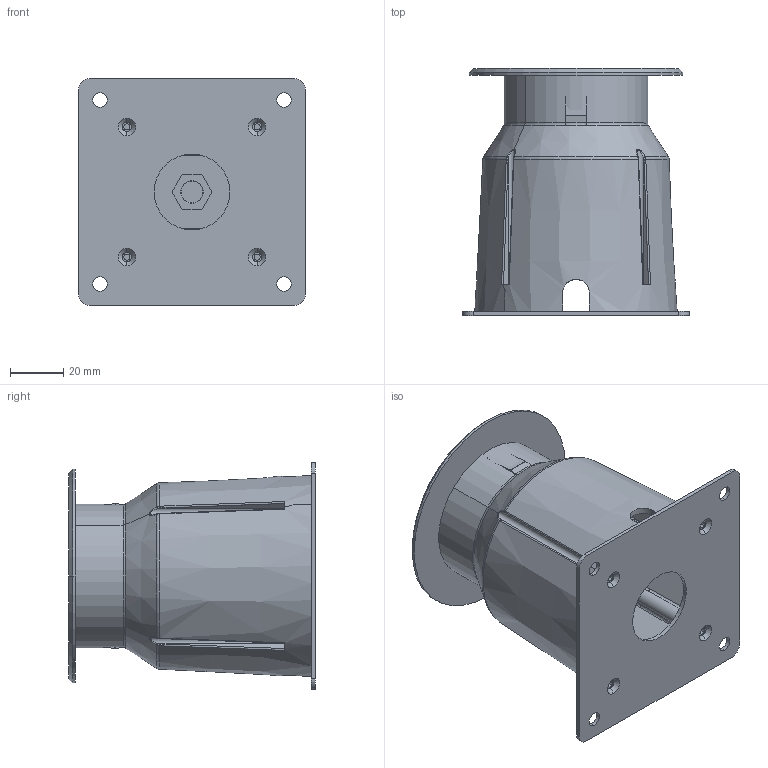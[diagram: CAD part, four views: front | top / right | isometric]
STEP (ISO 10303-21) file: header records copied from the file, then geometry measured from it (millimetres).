
FILE_DESCRIPTION((''),'2;1');
FILE_NAME('1SR-00_ASM','2022-11-03T',('C030'),(''),'PRO/ENGINEER BY PARAMETRIC TECHNOLOGY CORPORATION, 2014000','PRO/ENGINEER BY PARAMETRIC TECHNOLOGY CORPORATION, 2014000','');
FILE_SCHEMA(('CONFIG_CONTROL_DESIGN'));
Length unit declared in the file: millimetre
Products named in the file (15): 1SR-BL_4_2; 1QR-A-JGB_2_2; 1SR-TJ-0625_4_2; 1SR-LJB-0625_3_2; 1SR-PEIJIAN_ASM; 1SR2022-ZUIZHONGDANG_2; XINDT; 1SR-ZUJIAN_ASM; 2W-B_; HOUGAI; 12A_1_114; KAHUANG; XINYUMAITONG; DIBAN; 1SR-00_ASM
Assembly tree (15 placements, depth 4):
  1SR-00_ASM
    1SR-ZUJIAN_ASM
      1SR-PEIJIAN_ASM
        1SR-BL_4_2
        1QR-A-JGB_2_2
        1SR-TJ-0625_4_2
        1SR-LJB-0625_3_2
      1SR2022-ZUIZHONGDANG_2
      XINDT
    2W-B_
    HOUGAI
    12A_1_114
    KAHUANG  x2
    XINYUMAITONG
    DIBAN
Bounding box: 85 x 92.5 x 85 mm (x, y, z)
Volume: 120862.7 mm3; surface area: 104469.5 mm2
Topology: 13 solids, 13 shells, 727 faces, 1886 edges, 1216 vertices
Faces by surface type: plane 468, cylinder 149, bspline 46, cone 40, torus 16, sphere 8
Entity records: 23617 total; most frequent: CARTESIAN_POINT 6655, ORIENTED_EDGE 3544, DIRECTION 3343, EDGE_CURVE 1772, VECTOR 1211, LINE 1211, VERTEX_POINT 1156, AXIS2_PLACEMENT_3D 1066
